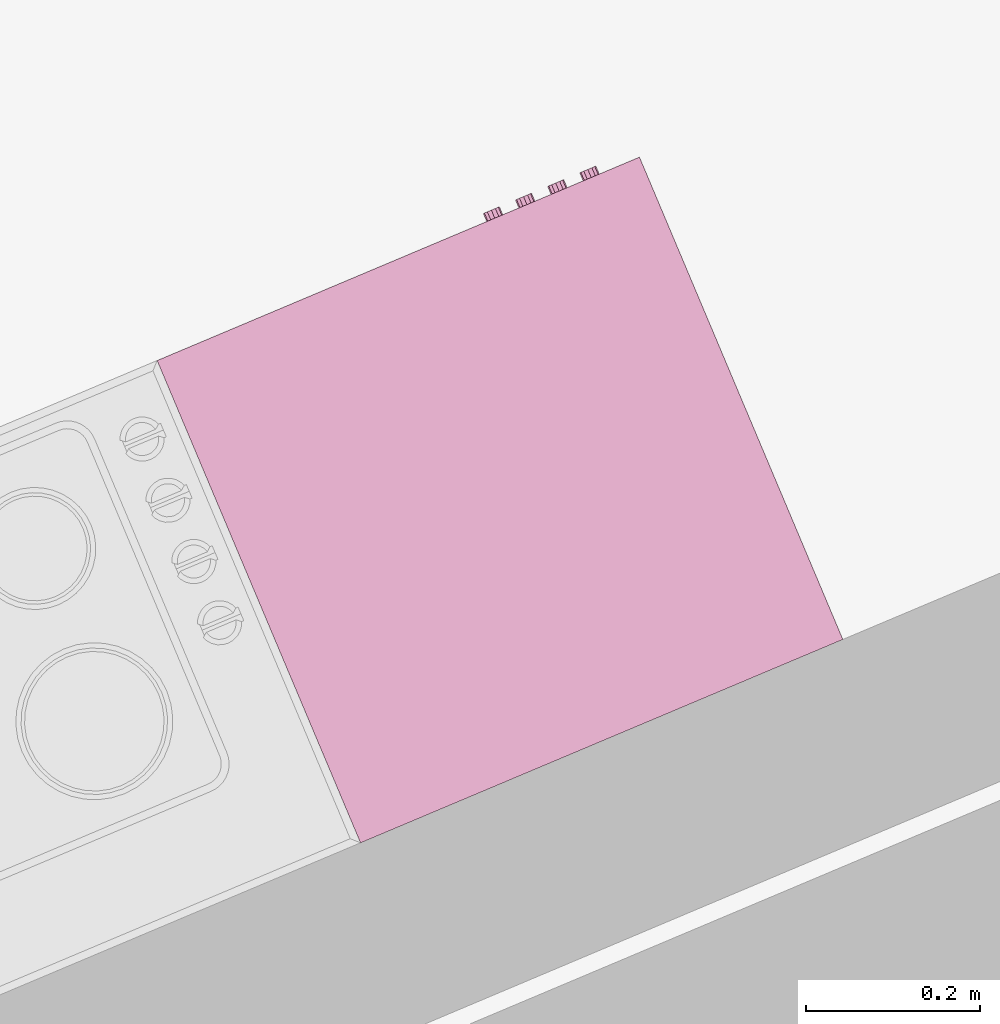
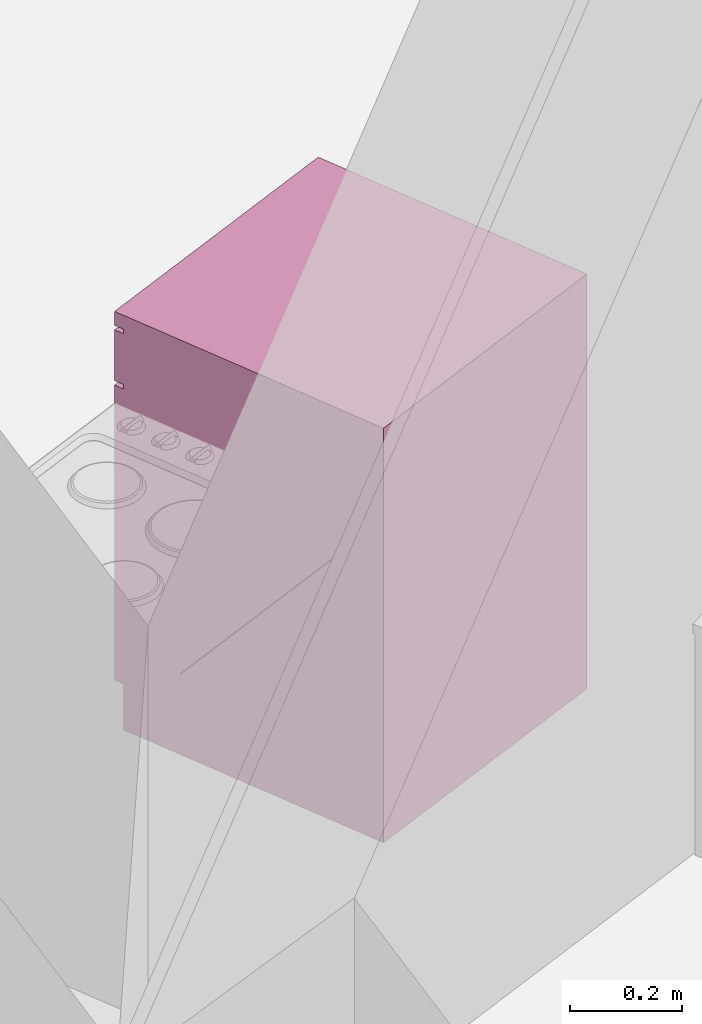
# One storey, part 158 of 195: 1 furnishing.
"""IFC2X3 building model written with IfcOpenShell, lengths in metres."""

from ifc_helpers import new_model, entity, si_unit, converted_unit, derived_unit, money_unit, direction, frame, origin_with_axes, place, context, subcontext, project, spatial, open_shell, faceted_brep, surface_model, source, transform, mapped, type_object, element, save


model = new_model("IFC2X3")

# Units and contexts
model_context = context("Model", 3, precision=1e-05, world=origin_with_axes(), true_north=direction((0.0, 1.0)))
body_context = subcontext(model_context, "Body", "Model", "MODEL_VIEW")
ifc_project = project(units=[si_unit("LENGTHUNIT", "METRE"), si_unit("AREAUNIT", "SQUARE_METRE"), si_unit("VOLUMEUNIT", "CUBIC_METRE"), converted_unit("PLANEANGLEUNIT", "DEGREE", entity("IfcPlaneAngleMeasure", 0.0174532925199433), si_unit("PLANEANGLEUNIT", "RADIAN"), dimensions=[0, 0, 0, 0, 0, 0, 0]), money_unit("CHF"), converted_unit("TIMEUNIT", "Year", entity("IfcTimeMeasure", 31557600.0), si_unit("TIMEUNIT", "SECOND"), dimensions=[0, 0, 1, 0, 0, 0, 0]), si_unit("MASSUNIT", "GRAM", prefix="KILO"), si_unit("THERMODYNAMICTEMPERATUREUNIT", "DEGREE_CELSIUS"), si_unit("LUMINOUSINTENSITYUNIT", "LUMEN"), si_unit("ENERGYUNIT", "JOULE", prefix="MEGA"), derived_unit("THERMALCONDUCTANCEUNIT", [(si_unit("POWERUNIT", "WATT"), 1), (si_unit("LENGTHUNIT", "METRE"), -1), (si_unit("THERMODYNAMICTEMPERATUREUNIT", "KELVIN"), -1)]), derived_unit("SPECIFICHEATCAPACITYUNIT", [(si_unit("ENERGYUNIT", "JOULE"), 1), (si_unit("MASSUNIT", "GRAM", prefix="KILO"), -1), (si_unit("THERMODYNAMICTEMPERATUREUNIT", "KELVIN"), -1)]), derived_unit("MASSDENSITYUNIT", [(si_unit("MASSUNIT", "GRAM", prefix="KILO"), 1), (si_unit("VOLUMEUNIT", "CUBIC_METRE"), -1)])], contexts=[model_context])

# Site, building, storey
site_placement = place(None, origin_with_axes())
site = spatial("IfcSite", under=ifc_project, at=site_placement, Name="Site", CompositionType="ELEMENT")
building_placement = place(site_placement, origin_with_axes())
building = spatial("IfcBuilding", under=site, at=building_placement, Name="Bâtiment", CompositionType="ELEMENT")
storey_placement = place(building_placement, origin_with_axes())
storey = spatial("IfcBuildingStorey", under=building, at=storey_placement, Name="rdc", CompositionType="ELEMENT", Elevation=0.0)

# Furnishing
furnishing_element_type = type_object("IfcFurnishingElementType", Name="Machine à laver")
shared_shape = source(origin_with_axes(), body_context, "Body", "SurfaceModel", [
    faceted_brep([(0.0, 0.02, 0.1), (0.6, 0.02, 0.1), (0.6, 0.0, 0.1), (0.0, 0.0, 0.1), (0.0, 0.02000000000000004, 0.74), (0.6, 0.02000000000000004, 0.74), (0.4714285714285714, 0.02000000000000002, 0.42), (0.4655872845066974, 0.02000000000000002, 0.4643689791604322), (0.448461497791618, 0.02000000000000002, 0.5057142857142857), (0.4212183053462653, 0.02000000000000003, 0.5412183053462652), (0.3857142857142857, 0.02000000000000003, 0.568461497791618), (0.3443689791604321, 0.02000000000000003, 0.5855872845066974), (0.3, 0.02000000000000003, 0.5914285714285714), (0.2556310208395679, 0.02000000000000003, 0.5855872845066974), (0.2142857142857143, 0.02000000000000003, 0.5684614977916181), (0.1787816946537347, 0.02000000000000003, 0.5412183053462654), (0.1515385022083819, 0.02000000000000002, 0.5057142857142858), (0.1344127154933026, 0.02000000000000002, 0.4643689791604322), (0.1285714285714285, 0.02000000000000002, 0.42), (0.1344127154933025, 0.02000000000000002, 0.3756310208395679), (0.1515385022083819, 0.02000000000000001, 0.3342857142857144), (0.1787816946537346, 0.02000000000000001, 0.2987816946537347), (0.2142857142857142, 0.02000000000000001, 0.2715385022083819), (0.2556310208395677, 0.02000000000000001, 0.2544127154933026), (0.2999999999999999, 0.02000000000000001, 0.2485714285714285), (0.344368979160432, 0.02000000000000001, 0.2544127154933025), (0.3857142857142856, 0.02000000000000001, 0.2715385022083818), (0.4212183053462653, 0.02000000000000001, 0.2987816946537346), (0.448461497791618, 0.02000000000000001, 0.3342857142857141), (0.4655872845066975, 0.02000000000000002, 0.3756310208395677), (0.6, 0.0, 0.74), (0.0, 0.0, 0.74), (0.4714285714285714, 0.0, 0.42), (0.4655872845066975, 0.0, 0.3756310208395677), (0.448461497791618, 0.0, 0.3342857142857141), (0.4212183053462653, 0.0, 0.2987816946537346), (0.3857142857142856, 0.0, 0.2715385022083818), (0.344368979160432, 0.0, 0.2544127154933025), (0.2999999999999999, 0.0, 0.2485714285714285), (0.2556310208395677, 0.0, 0.2544127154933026), (0.2142857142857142, 0.0, 0.2715385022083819), (0.1787816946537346, 0.0, 0.2987816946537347), (0.1515385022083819, 0.0, 0.3342857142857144), (0.1344127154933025, 0.0, 0.3756310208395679), (0.1285714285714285, 0.0, 0.42), (0.1344127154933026, 0.0, 0.4643689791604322), (0.1515385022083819, 0.0, 0.5057142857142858), (0.1787816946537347, 0.0, 0.5412183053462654), (0.2142857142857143, 0.0, 0.5684614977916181), (0.2556310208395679, 0.0, 0.5855872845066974), (0.3, 0.0, 0.5914285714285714), (0.3443689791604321, 0.0, 0.5855872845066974), (0.3857142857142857, 0.0, 0.568461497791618), (0.4212183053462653, 0.0, 0.5412183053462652), (0.448461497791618, 0.0, 0.5057142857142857), (0.4655872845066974, 0.0, 0.4643689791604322)], [[[0, 1, 2, 3]], [[0, 4, 5, 1], [6, 7, 8, 9, 10, 11, 12, 13, 14, 15, 16, 17, 18, 19, 20, 21, 22, 23, 24, 25, 26, 27, 28, 29]], [[1, 5, 30, 2]], [[3, 2, 30, 31], [32, 33, 34, 35, 36, 37, 38, 39, 40, 41, 42, 43, 44, 45, 46, 47, 48, 49, 50, 51, 52, 53, 54, 55]], [[4, 0, 3, 31]], [[5, 4, 31, 30]], [[7, 6, 32, 55]], [[8, 7, 55, 54]], [[9, 8, 54, 53]], [[10, 9, 53, 52]], [[11, 10, 52, 51]], [[12, 11, 51, 50]], [[13, 12, 50, 49]], [[14, 13, 49, 48]], [[15, 14, 48, 47]], [[16, 15, 47, 46]], [[17, 16, 46, 45]], [[18, 17, 45, 44]], [[19, 18, 44, 43]], [[20, 19, 43, 42]], [[21, 20, 42, 41]], [[22, 21, 41, 40]], [[23, 22, 40, 39]], [[24, 23, 39, 38]], [[25, 24, 38, 37]], [[26, 25, 37, 36]], [[27, 26, 36, 35]], [[28, 27, 35, 34]], [[29, 28, 34, 33]], [[6, 29, 33, 32]]]),
    faceted_brep([(0.4714285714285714, 0.04000000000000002, 0.42), (0.4655872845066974, 0.04000000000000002, 0.4643689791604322), (0.4655872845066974, 0.02000000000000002, 0.4643689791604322), (0.4714285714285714, 0.02000000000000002, 0.42), (0.4655872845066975, 0.04000000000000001, 0.3756310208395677), (0.448461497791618, 0.04000000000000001, 0.3342857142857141), (0.4212183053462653, 0.04000000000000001, 0.2987816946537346), (0.3857142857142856, 0.04000000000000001, 0.2715385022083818), (0.344368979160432, 0.04000000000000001, 0.2544127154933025), (0.2999999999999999, 0.04000000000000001, 0.2485714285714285), (0.2556310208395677, 0.04000000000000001, 0.2544127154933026), (0.2142857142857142, 0.04000000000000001, 0.2715385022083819), (0.1787816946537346, 0.04000000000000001, 0.2987816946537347), (0.1515385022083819, 0.04000000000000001, 0.3342857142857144), (0.1344127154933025, 0.04000000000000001, 0.3756310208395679), (0.1285714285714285, 0.04000000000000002, 0.42), (0.1344127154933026, 0.04000000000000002, 0.4643689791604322), (0.1515385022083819, 0.04000000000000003, 0.5057142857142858), (0.1787816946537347, 0.04000000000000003, 0.5412183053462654), (0.2142857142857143, 0.04000000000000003, 0.5684614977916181), (0.2556310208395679, 0.04000000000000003, 0.5855872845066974), (0.3, 0.04000000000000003, 0.5914285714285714), (0.3443689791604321, 0.04000000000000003, 0.5855872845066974), (0.3857142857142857, 0.04000000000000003, 0.568461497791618), (0.4212183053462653, 0.04000000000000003, 0.5412183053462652), (0.448461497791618, 0.04000000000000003, 0.5057142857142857), (0.4371428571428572, 0.04000000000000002, 0.42), (0.432469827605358, 0.04000000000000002, 0.4554951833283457), (0.4187691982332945, 0.04000000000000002, 0.4885714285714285), (0.3969746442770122, 0.04000000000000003, 0.5169746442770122), (0.3685714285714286, 0.04000000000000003, 0.5387691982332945), (0.3354951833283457, 0.04000000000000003, 0.552469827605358), (0.3, 0.04000000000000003, 0.5571428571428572), (0.2645048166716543, 0.04000000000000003, 0.552469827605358), (0.2314285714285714, 0.04000000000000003, 0.5387691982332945), (0.2030253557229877, 0.04000000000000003, 0.5169746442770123), (0.1812308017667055, 0.04000000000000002, 0.4885714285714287), (0.167530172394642, 0.04000000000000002, 0.4554951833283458), (0.1628571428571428, 0.04000000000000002, 0.42), (0.167530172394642, 0.04000000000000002, 0.3845048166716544), (0.1812308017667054, 0.04000000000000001, 0.3514285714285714), (0.2030253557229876, 0.04000000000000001, 0.3230253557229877), (0.2314285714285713, 0.04000000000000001, 0.3012308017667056), (0.2645048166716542, 0.04000000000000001, 0.287530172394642), (0.2999999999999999, 0.04000000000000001, 0.2828571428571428), (0.3354951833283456, 0.04000000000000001, 0.287530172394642), (0.3685714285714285, 0.04000000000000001, 0.3012308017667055), (0.3969746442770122, 0.04000000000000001, 0.3230253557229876), (0.4187691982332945, 0.04000000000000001, 0.3514285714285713), (0.432469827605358, 0.04000000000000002, 0.3845048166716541), (0.448461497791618, 0.02000000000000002, 0.5057142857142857), (0.4212183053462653, 0.02000000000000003, 0.5412183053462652), (0.3857142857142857, 0.02000000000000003, 0.568461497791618), (0.3443689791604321, 0.02000000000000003, 0.5855872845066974), (0.3, 0.02000000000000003, 0.5914285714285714), (0.2556310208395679, 0.02000000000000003, 0.5855872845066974), (0.2142857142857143, 0.02000000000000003, 0.5684614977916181), (0.1787816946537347, 0.02000000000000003, 0.5412183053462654), (0.1515385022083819, 0.02000000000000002, 0.5057142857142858), (0.1344127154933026, 0.02000000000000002, 0.4643689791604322), (0.1285714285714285, 0.02000000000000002, 0.42), (0.1344127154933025, 0.02000000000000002, 0.3756310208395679), (0.1515385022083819, 0.02000000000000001, 0.3342857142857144), (0.1787816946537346, 0.02000000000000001, 0.2987816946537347), (0.2142857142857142, 0.02000000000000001, 0.2715385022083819), (0.2556310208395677, 0.02000000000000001, 0.2544127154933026), (0.2999999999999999, 0.02000000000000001, 0.2485714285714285), (0.344368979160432, 0.02000000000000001, 0.2544127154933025), (0.3857142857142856, 0.02000000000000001, 0.2715385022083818), (0.4212183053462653, 0.02000000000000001, 0.2987816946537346), (0.448461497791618, 0.02000000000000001, 0.3342857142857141), (0.4655872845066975, 0.02000000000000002, 0.3756310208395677), (0.4371428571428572, 0.02000000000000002, 0.42), (0.432469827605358, 0.02000000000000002, 0.3845048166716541), (0.4187691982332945, 0.02000000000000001, 0.3514285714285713), (0.3969746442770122, 0.02000000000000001, 0.3230253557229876), (0.3685714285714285, 0.02000000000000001, 0.3012308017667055), (0.3354951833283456, 0.02000000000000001, 0.287530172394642), (0.2999999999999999, 0.02000000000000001, 0.2828571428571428), (0.2645048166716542, 0.02000000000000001, 0.287530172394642), (0.2314285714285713, 0.02000000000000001, 0.3012308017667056), (0.2030253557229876, 0.02000000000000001, 0.3230253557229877), (0.1812308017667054, 0.02000000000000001, 0.3514285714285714), (0.167530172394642, 0.02000000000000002, 0.3845048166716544), (0.1628571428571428, 0.02000000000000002, 0.42), (0.167530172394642, 0.02000000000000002, 0.4554951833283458), (0.1812308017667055, 0.02000000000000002, 0.4885714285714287), (0.2030253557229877, 0.02000000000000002, 0.5169746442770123), (0.2314285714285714, 0.02000000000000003, 0.5387691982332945), (0.2645048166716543, 0.02000000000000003, 0.552469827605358), (0.3, 0.02000000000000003, 0.5571428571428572), (0.3354951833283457, 0.02000000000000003, 0.552469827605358), (0.3685714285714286, 0.02000000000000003, 0.5387691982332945), (0.3969746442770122, 0.02000000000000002, 0.5169746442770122), (0.4187691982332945, 0.02000000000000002, 0.4885714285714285), (0.432469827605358, 0.02000000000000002, 0.4554951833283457)], [[[0, 1, 2, 3]], [[0, 4, 5, 6, 7, 8, 9, 10, 11, 12, 13, 14, 15, 16, 17, 18, 19, 20, 21, 22, 23, 24, 25, 1], [26, 27, 28, 29, 30, 31, 32, 33, 34, 35, 36, 37, 38, 39, 40, 41, 42, 43, 44, 45, 46, 47, 48, 49]], [[1, 25, 50, 2]], [[3, 2, 50, 51, 52, 53, 54, 55, 56, 57, 58, 59, 60, 61, 62, 63, 64, 65, 66, 67, 68, 69, 70, 71], [72, 73, 74, 75, 76, 77, 78, 79, 80, 81, 82, 83, 84, 85, 86, 87, 88, 89, 90, 91, 92, 93, 94, 95]], [[4, 0, 3, 71]], [[5, 4, 71, 70]], [[6, 5, 70, 69]], [[7, 6, 69, 68]], [[8, 7, 68, 67]], [[9, 8, 67, 66]], [[10, 9, 66, 65]], [[11, 10, 65, 64]], [[12, 11, 64, 63]], [[13, 12, 63, 62]], [[14, 13, 62, 61]], [[15, 14, 61, 60]], [[16, 15, 60, 59]], [[17, 16, 59, 58]], [[18, 17, 58, 57]], [[19, 18, 57, 56]], [[20, 19, 56, 55]], [[21, 20, 55, 54]], [[22, 21, 54, 53]], [[23, 22, 53, 52]], [[24, 23, 52, 51]], [[25, 24, 51, 50]], [[27, 26, 72, 95]], [[28, 27, 95, 94]], [[29, 28, 94, 93]], [[30, 29, 93, 92]], [[31, 30, 92, 91]], [[32, 31, 91, 90]], [[33, 32, 90, 89]], [[34, 33, 89, 88]], [[35, 34, 88, 87]], [[36, 35, 87, 86]], [[37, 36, 86, 85]], [[38, 37, 85, 84]], [[39, 38, 84, 83]], [[40, 39, 83, 82]], [[41, 40, 82, 81]], [[42, 41, 81, 80]], [[43, 42, 80, 79]], [[44, 43, 79, 78]], [[45, 44, 78, 77]], [[46, 45, 77, 76]], [[47, 46, 76, 75]], [[48, 47, 75, 74]], [[49, 48, 74, 73]], [[26, 49, 73, 72]]]),
    surface_model("IfcShellBasedSurfaceModel", [(0.2645048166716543, 0.03999999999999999, 0.552469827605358), (0.3, 0.03999999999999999, 0.5571428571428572), (0.3, 0.14, 0.5228571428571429), (0.2733786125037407, 0.14, 0.5193523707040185), (0.3354951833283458, 0.03999999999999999, 0.552469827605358), (0.3266213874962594, 0.14, 0.5193523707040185), (0.3514285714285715, 0.14, 0.5090768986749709), (0.3727309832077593, 0.14, 0.4927309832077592), (0.3890768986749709, 0.14, 0.4714285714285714), (0.3993523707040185, 0.14, 0.4466213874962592), (0.4028571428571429, 0.14, 0.42), (0.3993523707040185, 0.14, 0.3933786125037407), (0.3890768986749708, 0.14, 0.3685714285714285), (0.3727309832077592, 0.14, 0.3472690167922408), (0.3514285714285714, 0.14, 0.3309231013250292), (0.3266213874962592, 0.14, 0.3206476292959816), (0.2999999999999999, 0.14, 0.3171428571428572), (0.2733786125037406, 0.14, 0.3206476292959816), (0.2485714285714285, 0.14, 0.3309231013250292), (0.2272690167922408, 0.14, 0.3472690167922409), (0.2109231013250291, 0.14, 0.3685714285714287), (0.2006476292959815, 0.14, 0.3933786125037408), (0.1971428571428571, 0.14, 0.4200000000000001), (0.2006476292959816, 0.14, 0.4466213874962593), (0.2109231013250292, 0.14, 0.4714285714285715), (0.2272690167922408, 0.14, 0.4927309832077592), (0.2485714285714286, 0.14, 0.5090768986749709), (0.2314285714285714, 0.03999999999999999, 0.5387691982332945), (0.3685714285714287, 0.03999999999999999, 0.5387691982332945), (0.3969746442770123, 0.03999999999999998, 0.5169746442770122), (0.4187691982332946, 0.03999999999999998, 0.4885714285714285), (0.432469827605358, 0.03999999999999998, 0.4554951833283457), (0.4371428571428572, 0.03999999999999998, 0.4199999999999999), (0.432469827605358, 0.03999999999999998, 0.3845048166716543), (0.4187691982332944, 0.03999999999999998, 0.3514285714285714), (0.3969746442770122, 0.03999999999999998, 0.3230253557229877), (0.3685714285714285, 0.03999999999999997, 0.3012308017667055), (0.3354951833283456, 0.03999999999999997, 0.2875301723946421), (0.2999999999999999, 0.03999999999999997, 0.2828571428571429), (0.2645048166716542, 0.03999999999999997, 0.2875301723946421), (0.2314285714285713, 0.03999999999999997, 0.3012308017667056), (0.2030253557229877, 0.03999999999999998, 0.3230253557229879), (0.1812308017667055, 0.03999999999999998, 0.3514285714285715), (0.167530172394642, 0.03999999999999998, 0.3845048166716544), (0.1628571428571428, 0.03999999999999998, 0.4200000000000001), (0.167530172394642, 0.03999999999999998, 0.4554951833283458), (0.1812308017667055, 0.03999999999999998, 0.4885714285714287), (0.2030253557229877, 0.03999999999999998, 0.5169746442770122)], [open_shell([[[0, 1, 2, 3]], [[1, 4, 5, 2]], [[2, 5, 6, 7, 8, 9, 10, 11, 12, 13, 14, 15, 16, 17, 18, 19, 20, 21, 22, 23, 24, 25, 26, 3]], [[27, 0, 3, 26]], [[4, 28, 6, 5]], [[28, 29, 7, 6]], [[29, 30, 8, 7]], [[30, 31, 9, 8]], [[31, 32, 10, 9]], [[32, 33, 11, 10]], [[33, 34, 12, 11]], [[34, 35, 13, 12]], [[35, 36, 14, 13]], [[36, 37, 15, 14]], [[37, 38, 16, 15]], [[38, 39, 17, 16]], [[39, 40, 18, 17]], [[40, 41, 19, 18]], [[41, 42, 20, 19]], [[42, 43, 21, 20]], [[43, 44, 22, 21]], [[44, 45, 23, 22]], [[45, 46, 24, 23]], [[46, 47, 25, 24]], [[47, 27, 26, 25]]])]),
    surface_model("IfcShellBasedSurfaceModel", [(0.0, 0.02, 0.1), (0.0, 0.02000000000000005, 0.87), (0.0, 0.6, 0.87), (0.0, 0.6, 0.09999999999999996)], [open_shell([[[0, 1, 2, 3]]])]),
    surface_model("IfcShellBasedSurfaceModel", [(0.6, 0.01999999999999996, 0.1), (0.6, 0.02000000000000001, 0.87), (0.6, 0.5999999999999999, 0.87), (0.6, 0.5999999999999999, 0.09999999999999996)], [open_shell([[[0, 1, 2, 3]]])]),
    surface_model("IfcShellBasedSurfaceModel", [(0.0, 0.6, 0.1), (0.0, 0.6, 0.87), (0.6, 0.6, 0.87), (0.6, 0.6, 0.1)], [open_shell([[[0, 1, 2, 3]]])]),
    faceted_brep([(0.0, 0.02, 0.0), (0.6, 0.02, 0.0), (0.6, 0.02, 0.1), (0.0, 0.02, 0.1), (0.0, 0.6, 0.0), (0.6, 0.6, 0.0), (0.6, 0.6, 0.1), (0.0, 0.6, 0.1)], [[[0, 1, 2, 3]], [[0, 4, 5, 1]], [[1, 5, 6, 2]], [[3, 2, 6, 7]], [[4, 0, 3, 7]], [[5, 4, 7, 6]]]),
    faceted_brep([(0.0, 0.02, 0.75), (0.6, 0.02, 0.75), (0.6, 0.0, 0.75), (0.0, 0.0, 0.75), (0.0, 0.02000000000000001, 0.86), (0.6, 0.02000000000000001, 0.86), (0.6, 0.0, 0.86), (0.0, 0.0, 0.86)], [[[0, 1, 2, 3]], [[0, 4, 5, 1]], [[1, 5, 6, 2]], [[3, 2, 6, 7]], [[4, 0, 3, 7]], [[5, 4, 7, 6]]]),
    surface_model("IfcShellBasedSurfaceModel", [(0.0, 0.02, 0.74), (0.0, 0.02000000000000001, 0.87), (0.6, 0.02000000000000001, 0.87), (0.6, 0.02, 0.74)], [open_shell([[[0, 1, 2, 3]]])]),
    faceted_brep([(0.0, 0.0, 0.87), (0.6, 0.0, 0.87), (0.6, 0.0, 0.9), (0.0, 0.0, 0.9), (0.0, 0.6, 0.87), (0.6, 0.6, 0.87), (0.6, 0.6, 0.9), (0.0, 0.6, 0.9)], [[[0, 1, 2, 3]], [[0, 4, 5, 1]], [[1, 5, 6, 2]], [[3, 2, 6, 7]], [[4, 0, 3, 7]], [[5, 4, 7, 6]]]),
    faceted_brep([(0.06866025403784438, 0.0, 0.8049999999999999), (0.06499999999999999, 0.0, 0.8013397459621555), (0.05999999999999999, 0.0, 0.7999999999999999), (0.05499999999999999, 0.0, 0.8013397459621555), (0.05133974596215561, 0.0, 0.8049999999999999), (0.05, 0.0, 0.8099999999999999), (0.05133974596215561, 0.0, 0.815), (0.055, 0.0, 0.8186602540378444), (0.06, 0.0, 0.82), (0.065, 0.0, 0.8186602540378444), (0.06866025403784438, 0.0, 0.815), (0.06999999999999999, 0.0, 0.8099999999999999), (0.06866025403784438, -0.01, 0.8049999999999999), (0.06499999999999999, -0.01, 0.8013397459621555), (0.05999999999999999, -0.01, 0.7999999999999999), (0.05499999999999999, -0.01, 0.8013397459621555), (0.05133974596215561, -0.01, 0.8049999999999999), (0.05, -0.01, 0.8099999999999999), (0.05133974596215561, -0.01, 0.815), (0.055, -0.01, 0.8186602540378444), (0.06, -0.01, 0.82), (0.065, -0.01, 0.8186602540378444), (0.06866025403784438, -0.01, 0.815), (0.06999999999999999, -0.01, 0.8099999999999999)], [[[0, 1, 2, 3, 4, 5, 6, 7, 8, 9, 10, 11]], [[1, 0, 12, 13]], [[2, 1, 13, 14]], [[3, 2, 14, 15]], [[4, 3, 15, 16]], [[5, 4, 16, 17]], [[6, 5, 17, 18]], [[7, 6, 18, 19]], [[8, 7, 19, 20]], [[9, 8, 20, 21]], [[10, 9, 21, 22]], [[11, 10, 22, 23]], [[0, 11, 23, 12]], [[12, 23, 22, 21, 20, 19, 18, 17, 16, 15, 14, 13]]]),
    faceted_brep([(0.1086602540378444, 0.0, 0.8049999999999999), (0.105, 0.0, 0.8013397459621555), (0.09999999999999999, 0.0, 0.7999999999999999), (0.095, 0.0, 0.8013397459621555), (0.09133974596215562, 0.0, 0.8049999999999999), (0.09000000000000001, 0.0, 0.8099999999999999), (0.09133974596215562, 0.0, 0.815), (0.095, 0.0, 0.8186602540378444), (0.1, 0.0, 0.82), (0.105, 0.0, 0.8186602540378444), (0.1086602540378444, 0.0, 0.815), (0.11, 0.0, 0.8099999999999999), (0.1086602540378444, -0.01, 0.8049999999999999), (0.105, -0.01, 0.8013397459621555), (0.09999999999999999, -0.01, 0.7999999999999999), (0.095, -0.01, 0.8013397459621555), (0.09133974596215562, -0.01, 0.8049999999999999), (0.09000000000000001, -0.01, 0.8099999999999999), (0.09133974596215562, -0.01, 0.815), (0.095, -0.01, 0.8186602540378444), (0.1, -0.01, 0.82), (0.105, -0.01, 0.8186602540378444), (0.1086602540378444, -0.01, 0.815), (0.11, -0.01, 0.8099999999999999)], [[[0, 1, 2, 3, 4, 5, 6, 7, 8, 9, 10, 11]], [[1, 0, 12, 13]], [[2, 1, 13, 14]], [[3, 2, 14, 15]], [[4, 3, 15, 16]], [[5, 4, 16, 17]], [[6, 5, 17, 18]], [[7, 6, 18, 19]], [[8, 7, 19, 20]], [[9, 8, 20, 21]], [[10, 9, 21, 22]], [[11, 10, 22, 23]], [[0, 11, 23, 12]], [[12, 23, 22, 21, 20, 19, 18, 17, 16, 15, 14, 13]]]),
    faceted_brep([(0.1486602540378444, 0.0, 0.8049999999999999), (0.145, 0.0, 0.8013397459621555), (0.14, 0.0, 0.7999999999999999), (0.135, 0.0, 0.8013397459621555), (0.1313397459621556, 0.0, 0.8049999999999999), (0.13, 0.0, 0.8099999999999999), (0.1313397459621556, 0.0, 0.815), (0.135, 0.0, 0.8186602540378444), (0.14, 0.0, 0.82), (0.145, 0.0, 0.8186602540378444), (0.1486602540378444, 0.0, 0.815), (0.15, 0.0, 0.8099999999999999), (0.1486602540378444, -0.01, 0.8049999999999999), (0.145, -0.01, 0.8013397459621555), (0.14, -0.01, 0.7999999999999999), (0.135, -0.01, 0.8013397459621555), (0.1313397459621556, -0.01, 0.8049999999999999), (0.13, -0.01, 0.8099999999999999), (0.1313397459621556, -0.01, 0.815), (0.135, -0.01, 0.8186602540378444), (0.14, -0.01, 0.82), (0.145, -0.01, 0.8186602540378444), (0.1486602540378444, -0.01, 0.815), (0.15, -0.01, 0.8099999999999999)], [[[0, 1, 2, 3, 4, 5, 6, 7, 8, 9, 10, 11]], [[1, 0, 12, 13]], [[2, 1, 13, 14]], [[3, 2, 14, 15]], [[4, 3, 15, 16]], [[5, 4, 16, 17]], [[6, 5, 17, 18]], [[7, 6, 18, 19]], [[8, 7, 19, 20]], [[9, 8, 20, 21]], [[10, 9, 21, 22]], [[11, 10, 22, 23]], [[0, 11, 23, 12]], [[12, 23, 22, 21, 20, 19, 18, 17, 16, 15, 14, 13]]]),
    faceted_brep([(0.1886602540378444, 0.0, 0.8049999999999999), (0.185, 0.0, 0.8013397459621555), (0.18, 0.0, 0.7999999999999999), (0.175, 0.0, 0.8013397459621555), (0.1713397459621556, 0.0, 0.8049999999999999), (0.17, 0.0, 0.8099999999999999), (0.1713397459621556, 0.0, 0.815), (0.175, 0.0, 0.8186602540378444), (0.18, 0.0, 0.82), (0.185, 0.0, 0.8186602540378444), (0.1886602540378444, 0.0, 0.815), (0.19, 0.0, 0.8099999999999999), (0.1886602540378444, -0.01, 0.8049999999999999), (0.185, -0.01, 0.8013397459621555), (0.18, -0.01, 0.7999999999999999), (0.175, -0.01, 0.8013397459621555), (0.1713397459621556, -0.01, 0.8049999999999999), (0.17, -0.01, 0.8099999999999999), (0.1713397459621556, -0.01, 0.815), (0.175, -0.01, 0.8186602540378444), (0.18, -0.01, 0.82), (0.185, -0.01, 0.8186602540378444), (0.1886602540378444, -0.01, 0.815), (0.19, -0.01, 0.8099999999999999)], [[[0, 1, 2, 3, 4, 5, 6, 7, 8, 9, 10, 11]], [[1, 0, 12, 13]], [[2, 1, 13, 14]], [[3, 2, 14, 15]], [[4, 3, 15, 16]], [[5, 4, 16, 17]], [[6, 5, 17, 18]], [[7, 6, 18, 19]], [[8, 7, 19, 20]], [[9, 8, 20, 21]], [[10, 9, 21, 22]], [[11, 10, 22, 23]], [[0, 11, 23, 12]], [[12, 23, 22, 21, 20, 19, 18, 17, 16, 15, 14, 13]]]),
])
furnishing_placement = place(storey_placement, frame((9564.503534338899, -1043.913302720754, 57.7), z_axis=(0.0, 0.0, 1.0), x_axis=(-0.9214205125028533, -0.3885669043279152, 0.0)))
element("IfcFurnishingElement", 1, at=furnishing_placement, inside=storey, type_object=furnishing_element_type, Name="Obj.-019", context=body_context, shape_type="MappedRepresentation", body=[
    mapped(shared_shape, transform((0.0, 0.0, 0.0))),
])

save(model, "model.ifc")
